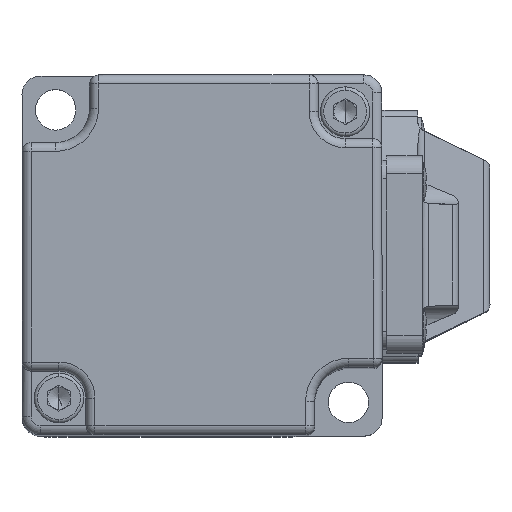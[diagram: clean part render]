
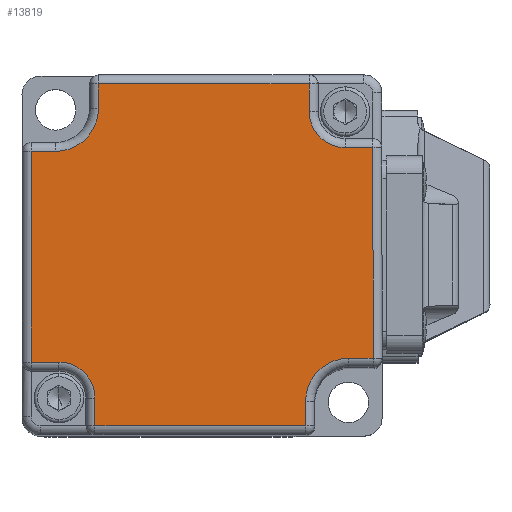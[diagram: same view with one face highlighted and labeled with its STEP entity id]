
A CAD part, top view. The second image highlights one B-rep face of the part: STEP entity #13819.
In plain terms, the highlighted planar face has unit normal (0, 0, 1).
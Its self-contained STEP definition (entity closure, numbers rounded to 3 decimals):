
#2843=CARTESIAN_POINT('',(-16.309,16.291,13.2));
#2844=DIRECTION('',(0.,0.,1.));
#2845=DIRECTION('',(0.001,-1.,0.));
#2846=AXIS2_PLACEMENT_3D('',#2843,#2844,#2845);
#2848=DIRECTION('',(1.,0.001,0.));
#2849=VECTOR('',#2848,23.41);
#2850=CARTESIAN_POINT('',(-11.51,18.994,13.2));
#2851=LINE('',#2850,#2849);
#2852=DIRECTION('',(0.001,-1.,0.));
#2853=VECTOR('',#2852,3.09);
#2854=CARTESIAN_POINT('',(11.9,19.006,13.2));
#2855=LINE('',#2854,#2853);
#2856=CARTESIAN_POINT('',(15.902,15.918,13.2));
#2857=DIRECTION('',(0.,0.,1.));
#2858=DIRECTION('',(-1.,-0.001,0.));
#2859=AXIS2_PLACEMENT_3D('',#2856,#2857,#2858);
#2861=CARTESIAN_POINT('',(16.309,-16.291,13.2));
#2862=DIRECTION('',(0.,0.,1.));
#2863=DIRECTION('',(-0.001,1.,0.));
#2864=AXIS2_PLACEMENT_3D('',#2861,#2862,#2863);
#2866=CARTESIAN_POINT('',(-15.902,-15.918,
13.2));
#2867=DIRECTION('',(0.,0.,1.));
#2868=DIRECTION('',(1.,0.001,0.));
#2869=AXIS2_PLACEMENT_3D('',#2866,#2867,#2868);
#2875=DIRECTION('',(0.001,-1.,0.));
#2876=VECTOR('',#2875,23.41);
#2877=CARTESIAN_POINT('',(-19.006,11.49,13.2));
#2878=LINE('',#2877,#2876);
#2889=DIRECTION('',(-1.,-0.001,0.));
#2890=VECTOR('',#2889,2.7);
#2891=CARTESIAN_POINT('',(-16.306,11.491,13.2));
#2892=LINE('',#2891,#2890);
#2912=DIRECTION('',(0.001,-1.,0.));
#2913=VECTOR('',#2912,2.7);
#2914=CARTESIAN_POINT('',(-11.51,18.994,13.2));
#2915=LINE('',#2914,#2913);
#2950=DIRECTION('',(1.,0.001,0.));
#2951=VECTOR('',#2950,3.09);
#2952=CARTESIAN_POINT('',(-18.994,-11.92,
13.2));
#2953=LINE('',#2952,#2951);
#2964=DIRECTION('',(0.001,-1.,0.));
#2965=VECTOR('',#2964,3.09);
#2966=CARTESIAN_POINT('',(-11.902,-15.916,
13.2));
#2967=LINE('',#2966,#2965);
#3281=DIRECTION('',(1.,0.001,0.));
#3282=VECTOR('',#3281,23.41);
#3283=CARTESIAN_POINT('',(-11.9,-19.006,
13.2));
#3284=LINE('',#3283,#3282);
#3304=DIRECTION('',(-0.001,1.,0.));
#3305=VECTOR('',#3304,2.7);
#3306=CARTESIAN_POINT('',(11.51,-18.994,13.2));
#3307=LINE('',#3306,#3305);
#3318=DIRECTION('',(1.,0.001,0.));
#3319=VECTOR('',#3318,2.7);
#3320=CARTESIAN_POINT('',(16.306,-11.491,13.2));
#3321=LINE('',#3320,#3319);
#3340=DIRECTION('',(-0.001,1.,0.));
#3341=VECTOR('',#3340,23.41);
#3342=CARTESIAN_POINT('',(19.006,-11.49,13.2));
#3343=LINE('',#3342,#3341);
#3367=DIRECTION('',(-1.,-0.001,0.));
#3368=VECTOR('',#3367,3.09);
#3369=CARTESIAN_POINT('',(18.994,11.92,13.2));
#3370=LINE('',#3369,#3368);
#9452=CARTESIAN_POINT('',(11.902,15.916,13.2));
#9453=VERTEX_POINT('',#9452);
#9454=CARTESIAN_POINT('',(15.904,11.918,13.2));
#9455=VERTEX_POINT('',#9454);
#9456=CARTESIAN_POINT('',(11.9,19.006,13.2));
#9457=VERTEX_POINT('',#9456);
#9458=CARTESIAN_POINT('',(-11.51,18.994,13.2));
#9459=VERTEX_POINT('',#9458);
#9462=CARTESIAN_POINT('',(-16.306,11.491,13.2));
#9463=CARTESIAN_POINT('',(-11.509,16.294,13.2));
#9464=VERTEX_POINT('',#9462);
#9465=VERTEX_POINT('',#9463);
#9466=CARTESIAN_POINT('',(16.306,-11.491,13.2));
#9467=CARTESIAN_POINT('',(11.509,-16.294,13.2));
#9468=VERTEX_POINT('',#9466);
#9469=VERTEX_POINT('',#9467);
#9470=CARTESIAN_POINT('',(-11.902,-15.916,
13.2));
#9471=CARTESIAN_POINT('',(-15.904,-11.918,
13.2));
#9472=VERTEX_POINT('',#9470);
#9473=VERTEX_POINT('',#9471);
#9478=CARTESIAN_POINT('',(-19.006,11.49,13.2));
#9479=CARTESIAN_POINT('',(-18.994,-11.92,
13.2));
#9480=VERTEX_POINT('',#9478);
#9481=VERTEX_POINT('',#9479);
#9498=CARTESIAN_POINT('',(-11.9,-19.006,
13.2));
#9499=VERTEX_POINT('',#9498);
#9522=CARTESIAN_POINT('',(11.51,-18.994,13.2));
#9523=VERTEX_POINT('',#9522);
#9534=CARTESIAN_POINT('',(19.006,-11.49,13.2));
#9535=VERTEX_POINT('',#9534);
#9538=CARTESIAN_POINT('',(18.994,11.92,13.2));
#9539=VERTEX_POINT('',#9538);
#13783=CARTESIAN_POINT('',(0.,0.,
13.2));
#13784=DIRECTION('',(0.,0.,1.));
#13785=DIRECTION('',(1.,0.001,0.));
#13786=AXIS2_PLACEMENT_3D('',#13783,#13784,#13785);
#13787=PLANE('',#13786);
#13789=ORIENTED_EDGE('',*,*,#13788,.F.);
#13791=ORIENTED_EDGE('',*,*,#13790,.F.);
#13793=ORIENTED_EDGE('',*,*,#13792,.T.);
#13795=ORIENTED_EDGE('',*,*,#13794,.F.);
#13796=ORIENTED_EDGE('',*,*,#13774,.T.);
#13797=ORIENTED_EDGE('',*,*,#13752,.T.);
#13798=ORIENTED_EDGE('',*,*,#13738,.T.);
#13800=ORIENTED_EDGE('',*,*,#13799,.F.);
#13802=ORIENTED_EDGE('',*,*,#13801,.F.);
#13804=ORIENTED_EDGE('',*,*,#13803,.F.);
#13806=ORIENTED_EDGE('',*,*,#13805,.T.);
#13808=ORIENTED_EDGE('',*,*,#13807,.F.);
#13810=ORIENTED_EDGE('',*,*,#13809,.F.);
#13812=ORIENTED_EDGE('',*,*,#13811,.F.);
#13814=ORIENTED_EDGE('',*,*,#13813,.T.);
#13816=ORIENTED_EDGE('',*,*,#13815,.F.);
#13817=EDGE_LOOP('',(#13789,#13791,#13793,#13795,#13796,#13797,#13798,#13800,
#13802,#13804,#13806,#13808,#13810,#13812,#13814,#13816));
#13818=FACE_OUTER_BOUND('',#13817,.F.);
#13819=ADVANCED_FACE('',(#13818),#13787,.T.);
#2847=CIRCLE('',#2846,4.8);
#2860=CIRCLE('',#2859,4.);
#2865=CIRCLE('',#2864,4.8);
#2870=CIRCLE('',#2869,4.);
#13738=EDGE_CURVE('',#9453,#9455,#2860,.T.);
#13752=EDGE_CURVE('',#9457,#9453,#2855,.T.);
#13774=EDGE_CURVE('',#9459,#9457,#2851,.T.);
#13788=EDGE_CURVE('',#9480,#9481,#2878,.T.);
#13790=EDGE_CURVE('',#9464,#9480,#2892,.T.);
#13792=EDGE_CURVE('',#9464,#9465,#2847,.T.);
#13794=EDGE_CURVE('',#9459,#9465,#2915,.T.);
#13799=EDGE_CURVE('',#9539,#9455,#3370,.T.);
#13801=EDGE_CURVE('',#9535,#9539,#3343,.T.);
#13803=EDGE_CURVE('',#9468,#9535,#3321,.T.);
#13805=EDGE_CURVE('',#9468,#9469,#2865,.T.);
#13807=EDGE_CURVE('',#9523,#9469,#3307,.T.);
#13809=EDGE_CURVE('',#9499,#9523,#3284,.T.);
#13811=EDGE_CURVE('',#9472,#9499,#2967,.T.);
#13813=EDGE_CURVE('',#9472,#9473,#2870,.T.);
#13815=EDGE_CURVE('',#9481,#9473,#2953,.T.);
